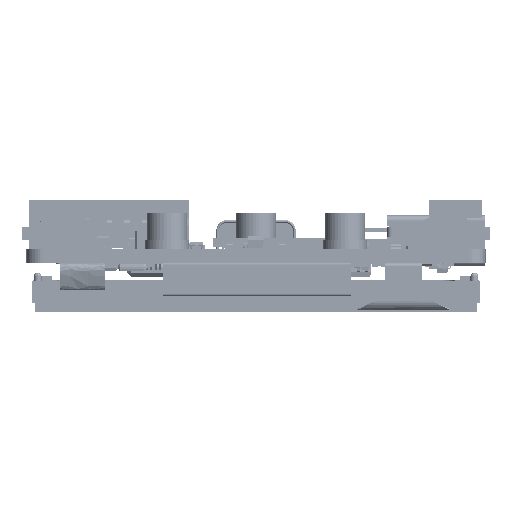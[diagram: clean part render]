
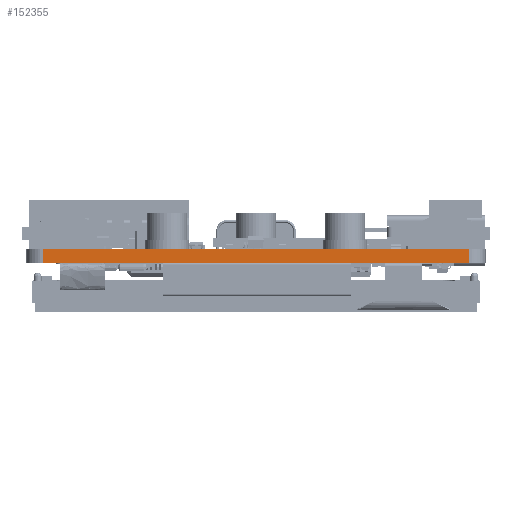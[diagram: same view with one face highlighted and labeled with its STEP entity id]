
A CAD part, front view. The second image highlights one B-rep face of the part: STEP entity #152355.
In plain terms, the highlighted planar face has unit normal (0, -1, 0).
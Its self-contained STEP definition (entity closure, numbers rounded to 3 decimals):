
#13741=FACE_OUTER_BOUND('',#21913,.T.);
#21913=EDGE_LOOP('',(#101897,#101898,#101899,#101900));
#30467=LINE('',#212175,#47570);
#30468=LINE('',#212179,#47571);
#30469=LINE('',#212181,#47572);
#30470=LINE('',#212182,#47573);
#47570=VECTOR('',#172471,1.);
#47571=VECTOR('',#172476,1.);
#47572=VECTOR('',#172477,1.);
#47573=VECTOR('',#172478,1.);
#64665=VERTEX_POINT('',#212172);
#64666=VERTEX_POINT('',#212174);
#64667=VERTEX_POINT('',#212178);
#64668=VERTEX_POINT('',#212180);
#79361=EDGE_CURVE('',#64666,#64665,#30467,.T.);
#79363=EDGE_CURVE('',#64665,#64667,#30468,.T.);
#79364=EDGE_CURVE('',#64668,#64667,#30469,.T.);
#79365=EDGE_CURVE('',#64666,#64668,#30470,.T.);
#101897=ORIENTED_EDGE('',*,*,#79361,.T.);
#101898=ORIENTED_EDGE('',*,*,#79363,.T.);
#101899=ORIENTED_EDGE('',*,*,#79364,.F.);
#101900=ORIENTED_EDGE('',*,*,#79365,.F.);
#146894=PLANE('',#161119);
#152355=ADVANCED_FACE('',(#13741),#146894,.T.);
#161119=AXIS2_PLACEMENT_3D('',#212177,#172474,#172475);
#172471=DIRECTION('',(0.,0.,1.));
#172474=DIRECTION('center_axis',(0.,-1.,0.));
#172475=DIRECTION('ref_axis',(-1.,0.,0.));
#172476=DIRECTION('',(-1.,0.,0.));
#172477=DIRECTION('',(0.,0.,1.));
#172478=DIRECTION('',(-1.,0.,0.));
#212172=CARTESIAN_POINT('',(23.9,-8.4,1.57));
#212174=CARTESIAN_POINT('',(23.9,-8.4,0.));
#212175=CARTESIAN_POINT('',(23.9,-8.4,0.));
#212177=CARTESIAN_POINT('Origin',(23.9,-8.4,0.));
#212178=CARTESIAN_POINT('',(-23.9,-8.4,1.57));
#212179=CARTESIAN_POINT('',(23.9,-8.4,1.57));
#212180=CARTESIAN_POINT('',(-23.9,-8.4,0.));
#212181=CARTESIAN_POINT('',(-23.9,-8.4,0.));
#212182=CARTESIAN_POINT('',(23.9,-8.4,0.));
